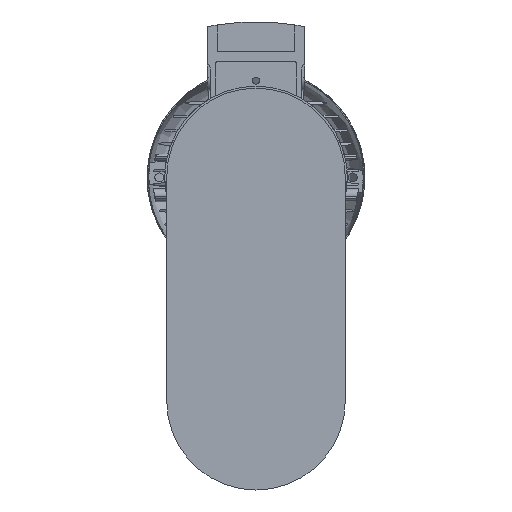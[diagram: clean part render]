
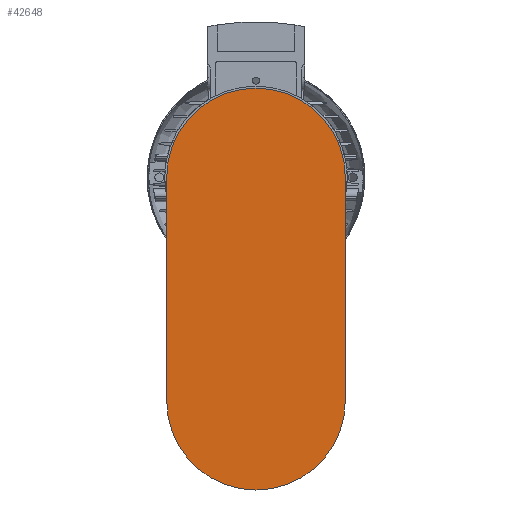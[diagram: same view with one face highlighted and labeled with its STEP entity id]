
A CAD part, front view. The second image highlights one B-rep face of the part: STEP entity #42648.
In plain terms, the highlighted planar face has unit normal (0, -1, 0).
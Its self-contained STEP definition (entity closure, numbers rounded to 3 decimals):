
#1441 = CARTESIAN_POINT ( 'NONE',  ( 90., -365., 279.5 ) ) ;
#1812 = AXIS2_PLACEMENT_3D ( 'NONE', #40824, #22789, #2921 ) ;
#2873 = AXIS2_PLACEMENT_3D ( 'NONE', #41465, #28536, #31436 ) ;
#2921 = DIRECTION ( 'NONE',  ( 0., 0., -1. ) ) ;
#4623 = VERTEX_POINT ( 'NONE', #37322 ) ;
#5731 = EDGE_CURVE ( 'NONE', #33805, #29455, #20504, .T. ) ;
#5900 = LINE ( 'NONE', #1441, #18812 ) ;
#7917 = DIRECTION ( 'NONE',  ( 0., 0., -1. ) ) ;
#8342 = PLANE ( 'NONE',  #34437 ) ;
#9509 = DIRECTION ( 'NONE',  ( 0., 0., 1. ) ) ;
#9626 = CARTESIAN_POINT ( 'NONE',  ( -90., -365., 54.5 ) ) ;
#10317 = ORIENTED_EDGE ( 'NONE', *, *, #26777, .F. ) ;
#11224 = DIRECTION ( 'NONE',  ( 0., -1., 0. ) ) ;
#11737 = VECTOR ( 'NONE', #9509, 1000. ) ;
#13078 = VERTEX_POINT ( 'NONE', #13106 ) ;
#13106 = CARTESIAN_POINT ( 'NONE',  ( 0., -365., -35.5 ) ) ;
#13739 = CIRCLE ( 'NONE', #1812, 90. ) ;
#14842 = CARTESIAN_POINT ( 'NONE',  ( -90., -365., 279.5 ) ) ;
#15057 = VERTEX_POINT ( 'NONE', #29794 ) ;
#16186 = CARTESIAN_POINT ( 'NONE',  ( -90., -365., 54.5 ) ) ;
#18812 = VECTOR ( 'NONE', #33315, 1000. ) ;
#19334 = CARTESIAN_POINT ( 'NONE',  ( 0., -365., 279.5 ) ) ;
#19533 = EDGE_LOOP ( 'NONE', ( #10317, #20586, #28997, #38111, #25412 ) ) ;
#19787 = CIRCLE ( 'NONE', #24205, 90. ) ;
#20504 = LINE ( 'NONE', #16186, #11737 ) ;
#20586 = ORIENTED_EDGE ( 'NONE', *, *, #41796, .F. ) ;
#22789 = DIRECTION ( 'NONE',  ( 0., 1., 0. ) ) ;
#24205 = AXIS2_PLACEMENT_3D ( 'NONE', #19334, #26139, #32387 ) ;
#25412 = ORIENTED_EDGE ( 'NONE', *, *, #25749, .F. ) ;
#25749 = EDGE_CURVE ( 'NONE', #13078, #33805, #40945, .T. ) ;
#26139 = DIRECTION ( 'NONE',  ( 0., 1., 0. ) ) ;
#26777 = EDGE_CURVE ( 'NONE', #4623, #13078, #13739, .T. ) ;
#27803 = EDGE_CURVE ( 'NONE', #29455, #15057, #19787, .T. ) ;
#28254 = FACE_OUTER_BOUND ( 'NONE', #19533, .T. ) ;
#28536 = DIRECTION ( 'NONE',  ( 0., 1., 0. ) ) ;
#28997 = ORIENTED_EDGE ( 'NONE', *, *, #27803, .F. ) ;
#29455 = VERTEX_POINT ( 'NONE', #14842 ) ;
#29794 = CARTESIAN_POINT ( 'NONE',  ( 90., -365., 279.5 ) ) ;
#31436 = DIRECTION ( 'NONE',  ( 0., 0., -1. ) ) ;
#32387 = DIRECTION ( 'NONE',  ( 0., 0., -1. ) ) ;
#33315 = DIRECTION ( 'NONE',  ( 0., 0., -1. ) ) ;
#33805 = VERTEX_POINT ( 'NONE', #9626 ) ;
#34437 = AXIS2_PLACEMENT_3D ( 'NONE', #37793, #11224, #7917 ) ;
#37322 = CARTESIAN_POINT ( 'NONE',  ( 90., -365., 54.5 ) ) ;
#37793 = CARTESIAN_POINT ( 'NONE',  ( 0., -365., 167. ) ) ;
#38111 = ORIENTED_EDGE ( 'NONE', *, *, #5731, .F. ) ;
#40824 = CARTESIAN_POINT ( 'NONE',  ( 0., -365., 54.5 ) ) ;
#40945 = CIRCLE ( 'NONE', #2873, 90. ) ;
#41465 = CARTESIAN_POINT ( 'NONE',  ( 0., -365., 54.5 ) ) ;
#41796 = EDGE_CURVE ( 'NONE', #15057, #4623, #5900, .T. ) ;
#42648 = ADVANCED_FACE ( 'NONE', ( #28254 ), #8342, .T. ) ;
